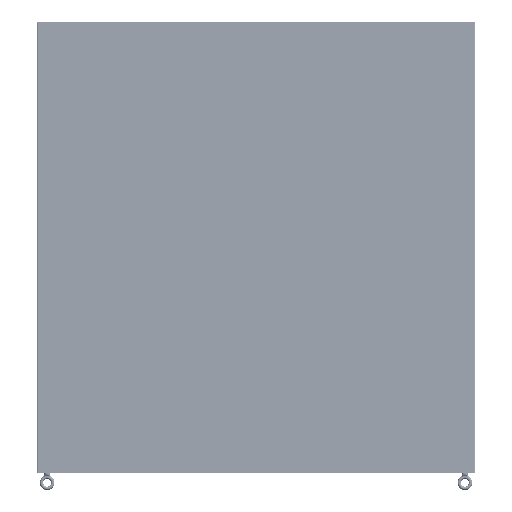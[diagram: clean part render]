
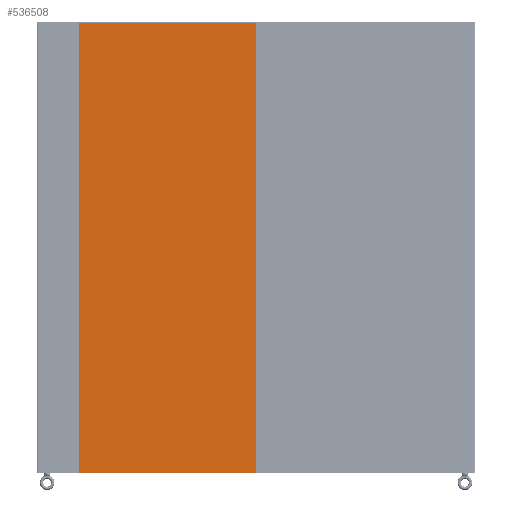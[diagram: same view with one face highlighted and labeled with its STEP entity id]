
A CAD part, left-side view. The second image highlights one B-rep face of the part: STEP entity #536508.
In plain terms, the highlighted planar face has unit normal (-1, 0, 0) as drawn and (0, 0, -1) by its records, which use the part's own axes.
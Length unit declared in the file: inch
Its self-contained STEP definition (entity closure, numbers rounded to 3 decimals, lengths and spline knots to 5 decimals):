
#536070=CARTESIAN_POINT('',(-15.6475,39.856,-0.104));
#536071=DIRECTION('',(0.,0.,-1.));
#536072=DIRECTION('',(-1.,0.,0.));
#536073=AXIS2_PLACEMENT_3D('',#536070,#536071,#536072);
#536078=DIRECTION('',(0.,-1.,0.));
#536079=VECTOR('',#536078,79.712);
#536080=CARTESIAN_POINT('',(-15.6875,39.856,-0.104));
#536081=LINE('',#536080,#536079);
#536085=CARTESIAN_POINT('',(-15.6475,-39.856,-0.104));
#536086=DIRECTION('',(0.,0.,-1.));
#536087=DIRECTION('',(0.,-1.,0.));
#536088=AXIS2_PLACEMENT_3D('',#536085,#536086,#536087);
#536093=DIRECTION('',(1.,0.,0.));
#536094=VECTOR('',#536093,31.295);
#536095=CARTESIAN_POINT('',(-15.6475,-39.896,-0.104));
#536096=LINE('',#536095,#536094);
#536100=CARTESIAN_POINT('',(15.6475,-39.856,-0.104));
#536101=DIRECTION('',(0.,0.,-1.));
#536102=DIRECTION('',(1.,0.,0.));
#536103=AXIS2_PLACEMENT_3D('',#536100,#536101,#536102);
#536108=DIRECTION('',(0.,1.,0.));
#536109=VECTOR('',#536108,79.712);
#536110=CARTESIAN_POINT('',(15.6875,-39.856,-0.104));
#536111=LINE('',#536110,#536109);
#536115=CARTESIAN_POINT('',(15.6475,39.856,-0.104));
#536116=DIRECTION('',(0.,0.,-1.));
#536117=DIRECTION('',(0.,1.,0.));
#536118=AXIS2_PLACEMENT_3D('',#536115,#536116,#536117);
#536123=DIRECTION('',(-1.,0.,0.));
#536124=VECTOR('',#536123,31.295);
#536125=CARTESIAN_POINT('',(15.6475,39.896,-0.104));
#536126=LINE('',#536125,#536124);
#536224=CARTESIAN_POINT('',(-15.6875,39.856,-0.104));
#536225=VERTEX_POINT('',#536224);
#536226=CARTESIAN_POINT('',(-15.6475,39.896,-0.104));
#536227=VERTEX_POINT('',#536226);
#536232=CARTESIAN_POINT('',(-15.6475,-39.896,-0.104));
#536233=VERTEX_POINT('',#536232);
#536234=CARTESIAN_POINT('',(-15.6875,-39.856,-0.104));
#536235=VERTEX_POINT('',#536234);
#536240=CARTESIAN_POINT('',(15.6475,39.896,-0.104));
#536241=VERTEX_POINT('',#536240);
#536242=CARTESIAN_POINT('',(15.6475,-39.896,-0.104));
#536243=VERTEX_POINT('',#536242);
#536246=CARTESIAN_POINT('',(15.6875,39.856,-0.104));
#536247=VERTEX_POINT('',#536246);
#536250=CARTESIAN_POINT('',(15.6875,-39.856,-0.104));
#536251=VERTEX_POINT('',#536250);
#536493=CARTESIAN_POINT('',(0.,0.,-0.104));
#536494=DIRECTION('',(0.,0.,1.));
#536495=DIRECTION('',(1.,0.,0.));
#536496=AXIS2_PLACEMENT_3D('',#536493,#536494,#536495);
#536497=PLANE('',#536496);
#536498=ORIENTED_EDGE('',*,*,#536333,.F.);
#536499=ORIENTED_EDGE('',*,*,#536356,.T.);
#536500=ORIENTED_EDGE('',*,*,#536376,.F.);
#536501=ORIENTED_EDGE('',*,*,#536398,.T.);
#536502=ORIENTED_EDGE('',*,*,#536418,.F.);
#536503=ORIENTED_EDGE('',*,*,#536438,.T.);
#536504=ORIENTED_EDGE('',*,*,#536460,.F.);
#536505=ORIENTED_EDGE('',*,*,#536479,.T.);
#536506=EDGE_LOOP('',(#536498,#536499,#536500,#536501,#536502,#536503,#536504,
#536505));
#536507=FACE_OUTER_BOUND('',#536506,.F.);
#536074=CIRCLE('',#536073,0.04);
#536089=CIRCLE('',#536088,0.04);
#536104=CIRCLE('',#536103,0.04);
#536119=CIRCLE('',#536118,0.04);
#536333=EDGE_CURVE('',#536225,#536227,#536074,.T.);
#536356=EDGE_CURVE('',#536225,#536235,#536081,.T.);
#536376=EDGE_CURVE('',#536233,#536235,#536089,.T.);
#536398=EDGE_CURVE('',#536233,#536243,#536096,.T.);
#536418=EDGE_CURVE('',#536251,#536243,#536104,.T.);
#536438=EDGE_CURVE('',#536251,#536247,#536111,.T.);
#536460=EDGE_CURVE('',#536241,#536247,#536119,.T.);
#536479=EDGE_CURVE('',#536241,#536227,#536126,.T.);
#536508=ADVANCED_FACE('',(#536507),#536497,.F.);
